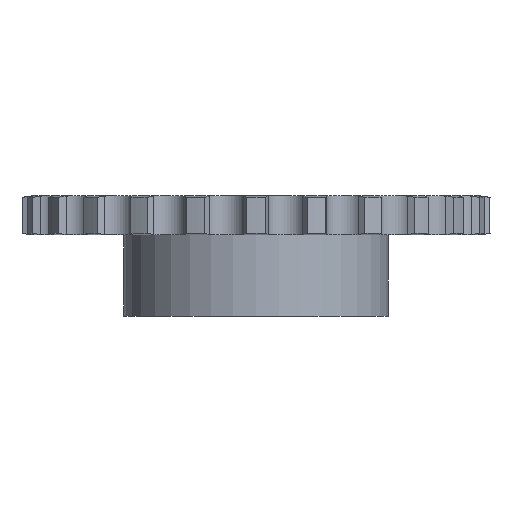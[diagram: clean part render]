
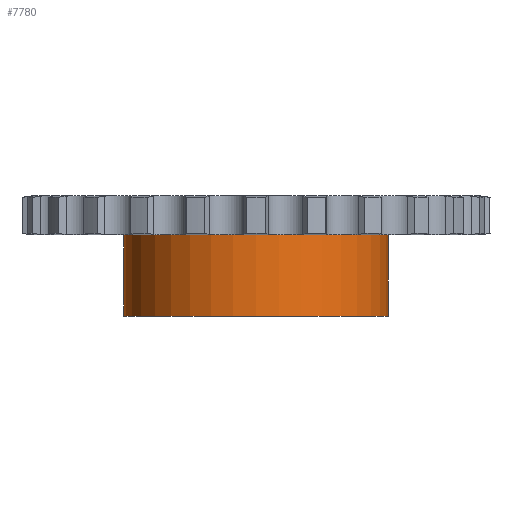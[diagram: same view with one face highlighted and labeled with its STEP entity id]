
A CAD part, front view. The second image highlights one B-rep face of the part: STEP entity #7780.
In plain terms, the highlighted cylindrical face has radius 55 mm (diameter 110 mm), a partial arc.
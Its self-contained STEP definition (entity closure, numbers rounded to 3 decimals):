
#1431=CARTESIAN_POINT('',(0.,0.,-8.1));
#1432=DIRECTION('',(0.,0.,1.));
#1433=DIRECTION('',(-1.,0.,0.));
#1434=AXIS2_PLACEMENT_3D('',#1431,#1432,#1433);
#3891=CARTESIAN_POINT('',(-55.,0.,
-22.));
#3915=DIRECTION('',(0.,0.,1.));
#3916=VECTOR('',#3915,33.8);
#3917=CARTESIAN_POINT('',(55.,0.,-41.9));
#3918=LINE('',#3917,#3916);
#4042=CARTESIAN_POINT('',(-55.,0.,
-22.));
#4043=CARTESIAN_POINT('',(-55.,-0.132,
-22.));
#4044=CARTESIAN_POINT('',(-54.999,-0.395,
-22.017));
#4045=CARTESIAN_POINT('',(-54.995,-0.79,
-22.094));
#4046=CARTESIAN_POINT('',(-54.988,-1.171,
-22.223));
#4047=CARTESIAN_POINT('',(-54.979,-1.531,
-22.4));
#4048=CARTESIAN_POINT('',(-54.969,-1.862,
-22.62));
#4049=CARTESIAN_POINT('',(-54.958,-2.161,
-22.881));
#4050=CARTESIAN_POINT('',(-54.947,-2.422,
-23.178));
#4051=CARTESIAN_POINT('',(-54.937,-2.642,
-23.506));
#4052=CARTESIAN_POINT('',(-54.928,-2.817,
-23.861));
#4053=CARTESIAN_POINT('',(-54.921,-2.943,
-24.234));
#4054=CARTESIAN_POINT('',(-54.917,-3.018,
-24.618));
#4055=CARTESIAN_POINT('',(-54.916,-3.035,
-24.873));
#4056=CARTESIAN_POINT('',(-54.916,-3.035,
-25.));
#4061=DIRECTION('',(0.,0.,1.));
#4062=VECTOR('',#4061,13.9);
#4063=CARTESIAN_POINT('',(-55.,0.,
-22.));
#4064=LINE('',#4063,#4062);
#4068=DIRECTION('',(0.,0.,1.));
#4069=VECTOR('',#4068,13.9);
#4070=CARTESIAN_POINT('',(-55.,0.,-41.9));
#4071=LINE('',#4070,#4069);
#4075=CARTESIAN_POINT('',(-54.916,-3.035,
-25.));
#4076=CARTESIAN_POINT('',(-54.916,-3.035,
-25.127));
#4077=CARTESIAN_POINT('',(-54.917,-3.018,
-25.381));
#4078=CARTESIAN_POINT('',(-54.921,-2.943,
-25.765));
#4079=CARTESIAN_POINT('',(-54.928,-2.817,
-26.138));
#4080=CARTESIAN_POINT('',(-54.937,-2.642,
-26.493));
#4081=CARTESIAN_POINT('',(-54.947,-2.422,
-26.822));
#4082=CARTESIAN_POINT('',(-54.958,-2.161,
-27.118));
#4083=CARTESIAN_POINT('',(-54.969,-1.862,
-27.379));
#4084=CARTESIAN_POINT('',(-54.979,-1.531,
-27.6));
#4085=CARTESIAN_POINT('',(-54.988,-1.172,
-27.777));
#4086=CARTESIAN_POINT('',(-54.995,-0.791,
-27.906));
#4087=CARTESIAN_POINT('',(-54.999,-0.396,
-27.983));
#4088=CARTESIAN_POINT('',(-55.,-0.132,
-28.));
#4089=CARTESIAN_POINT('',(-55.,0.,
-28.));
#4102=CARTESIAN_POINT('',(0.,0.,-41.9));
#4103=DIRECTION('',(0.,0.,-1.));
#4104=DIRECTION('',(1.,0.,0.));
#4105=AXIS2_PLACEMENT_3D('',#4102,#4103,#4104);
#4519=CARTESIAN_POINT('',(-55.,0.,-41.9));
#4520=CARTESIAN_POINT('',(55.,0.,-41.9));
#4521=VERTEX_POINT('',#4519);
#4522=VERTEX_POINT('',#4520);
#4523=CARTESIAN_POINT('',(55.,0.,-8.1));
#4524=VERTEX_POINT('',#4523);
#4525=CARTESIAN_POINT('',(-55.,0.,-8.1));
#4526=VERTEX_POINT('',#4525);
#4798=VERTEX_POINT('',#3891);
#4801=VERTEX_POINT('',#4056);
#4803=VERTEX_POINT('',#4089);
#7764=CARTESIAN_POINT('',(0.,0.,8.1));
#7765=DIRECTION('',(0.,0.,1.));
#7766=DIRECTION('',(1.,0.,0.));
#7767=AXIS2_PLACEMENT_3D('',#7764,#7765,#7766);
#7768=CYLINDRICAL_SURFACE('',#7767,55.);
#7769=ORIENTED_EDGE('',*,*,#7754,.F.);
#7770=ORIENTED_EDGE('',*,*,#7337,.T.);
#7771=ORIENTED_EDGE('',*,*,#6392,.T.);
#7772=ORIENTED_EDGE('',*,*,#7334,.F.);
#7774=ORIENTED_EDGE('',*,*,#7773,.T.);
#7775=ORIENTED_EDGE('',*,*,#7330,.T.);
#7777=ORIENTED_EDGE('',*,*,#7776,.F.);
#7778=EDGE_LOOP('',(#7769,#7770,#7771,#7772,#7774,#7775,#7777));
#7779=FACE_OUTER_BOUND('',#7778,.F.);
#7780=ADVANCED_FACE('',(#7779),#7768,.T.);
#1435=CIRCLE('',#1434,55.);
#4057=B_SPLINE_CURVE_WITH_KNOTS('',3,(#4042,#4043,#4044,#4045,#4046,#4047,#4048,
#4049,#4050,#4051,#4052,#4053,#4054,#4055,#4056),.UNSPECIFIED.,.F.,.F.,(4,1,1,1,
1,1,1,1,1,1,1,1,4),(0.,0.083,0.167,0.25,
0.333,0.417,0.5,0.583,0.667,
0.75,0.833,0.917,1.),.UNSPECIFIED.);
#4090=B_SPLINE_CURVE_WITH_KNOTS('',3,(#4075,#4076,#4077,#4078,#4079,#4080,#4081,
#4082,#4083,#4084,#4085,#4086,#4087,#4088,#4089),.UNSPECIFIED.,.F.,.F.,(4,1,1,1,
1,1,1,1,1,1,1,1,4),(0.,0.083,0.167,0.25,
0.333,0.417,0.5,0.583,0.667,
0.75,0.833,0.917,1.),.UNSPECIFIED.);
#4106=CIRCLE('',#4105,55.);
#6392=EDGE_CURVE('',#4526,#4524,#1435,.T.);
#7330=EDGE_CURVE('',#4521,#4803,#4071,.T.);
#7334=EDGE_CURVE('',#4522,#4524,#3918,.T.);
#7337=EDGE_CURVE('',#4798,#4526,#4064,.T.);
#7754=EDGE_CURVE('',#4798,#4801,#4057,.T.);
#7773=EDGE_CURVE('',#4522,#4521,#4106,.T.);
#7776=EDGE_CURVE('',#4801,#4803,#4090,.T.);
